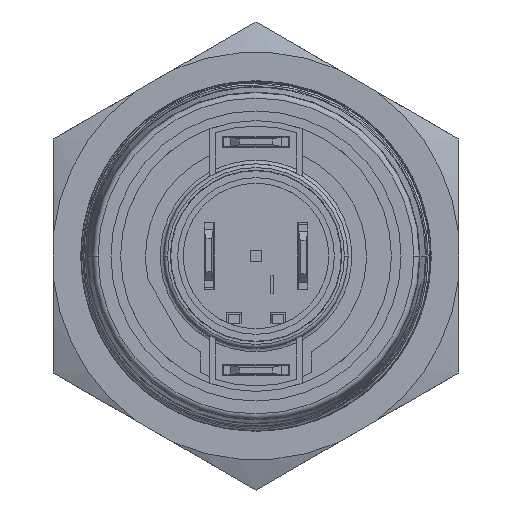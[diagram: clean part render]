
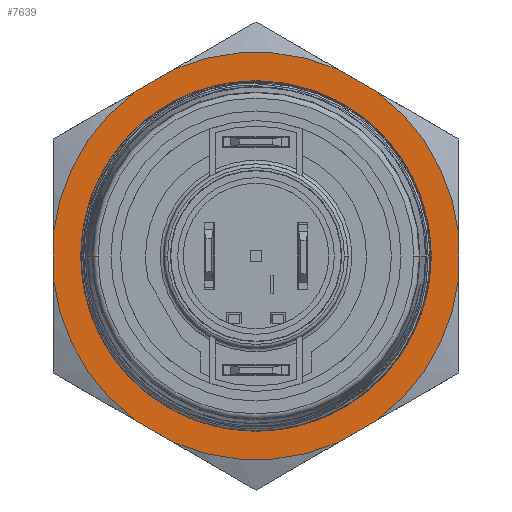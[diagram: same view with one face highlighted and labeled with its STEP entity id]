
A CAD part, front view. The second image highlights one B-rep face of the part: STEP entity #7639.
In plain terms, the highlighted planar face has unit normal (0, -1, 0).
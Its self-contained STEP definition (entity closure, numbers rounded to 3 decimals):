
#751=DIRECTION('',(0.866,0.,-0.5));
#752=VECTOR('',#751,2.392);
#753=CARTESIAN_POINT('',(-6.536,10.46,-8.928));
#754=LINE('',#753,#752);
#755=CARTESIAN_POINT('',(0.,10.46,0.));
#756=DIRECTION('',(0.,1.,0.));
#757=DIRECTION('',(-0.591,0.,-0.807));
#758=AXIS2_PLACEMENT_3D('',#755,#756,#757);
#760=DIRECTION('',(0.,0.,-1.));
#761=VECTOR('',#760,2.392);
#762=CARTESIAN_POINT('',(-11.,10.46,1.196));
#763=LINE('',#762,#761);
#764=CARTESIAN_POINT('',(0.,10.46,0.));
#765=DIRECTION('',(0.,1.,0.));
#766=DIRECTION('',(-0.994,0.,0.108));
#767=AXIS2_PLACEMENT_3D('',#764,#765,#766);
#769=DIRECTION('',(-0.866,0.,-0.5));
#770=VECTOR('',#769,2.392);
#771=CARTESIAN_POINT('',(-4.464,10.46,10.124));
#772=LINE('',#771,#770);
#773=DIRECTION('',(-0.866,0.,0.5));
#774=VECTOR('',#773,2.392);
#775=CARTESIAN_POINT('',(6.536,10.46,8.928));
#776=LINE('',#775,#774);
#777=CARTESIAN_POINT('',(0.,10.46,0.));
#778=DIRECTION('',(0.,1.,0.));
#779=DIRECTION('',(0.591,0.,0.807));
#780=AXIS2_PLACEMENT_3D('',#777,#778,#779);
#782=DIRECTION('',(0.,0.,1.));
#783=VECTOR('',#782,2.392);
#784=CARTESIAN_POINT('',(11.,10.46,-1.196));
#785=LINE('',#784,#783);
#786=CARTESIAN_POINT('',(0.,10.46,0.));
#787=DIRECTION('',(0.,1.,0.));
#788=DIRECTION('',(0.994,0.,-0.108));
#789=AXIS2_PLACEMENT_3D('',#786,#787,#788);
#791=DIRECTION('',(0.866,0.,0.5));
#792=VECTOR('',#791,2.392);
#793=CARTESIAN_POINT('',(4.464,10.46,-10.124));
#794=LINE('',#793,#792);
#795=CARTESIAN_POINT('',(0.,10.46,0.));
#796=DIRECTION('',(0.,1.,0.));
#797=DIRECTION('',(0.,0.,-1.));
#798=AXIS2_PLACEMENT_3D('',#795,#796,#797);
#800=CARTESIAN_POINT('',(0.,10.46,0.));
#801=DIRECTION('',(0.,1.,0.));
#802=DIRECTION('',(0.,0.,1.));
#803=AXIS2_PLACEMENT_3D('',#800,#801,#802);
#899=CARTESIAN_POINT('',(-4.464,10.46,10.124));
#988=CARTESIAN_POINT('',(4.464,10.46,10.124));
#1110=CARTESIAN_POINT('',(0.,10.46,0.));
#1111=DIRECTION('',(0.,-1.,0.));
#1112=DIRECTION('',(-0.403,0.,-0.915));
#1113=AXIS2_PLACEMENT_3D('',#1110,#1111,#1112);
#1115=CARTESIAN_POINT('',(0.,10.46,0.));
#1116=DIRECTION('',(0.,-1.,0.));
#1117=DIRECTION('',(0.403,0.,0.915));
#1118=AXIS2_PLACEMENT_3D('',#1115,#1116,#1117);
#6875=CARTESIAN_POINT('',(-6.536,10.46,-8.928));
#6876=CARTESIAN_POINT('',(-4.464,10.46,-10.124));
#6877=VERTEX_POINT('',#6875);
#6878=VERTEX_POINT('',#6876);
#6879=CARTESIAN_POINT('',(4.464,10.46,-10.124));
#6880=CARTESIAN_POINT('',(6.536,10.46,-8.928));
#6881=VERTEX_POINT('',#6879);
#6882=VERTEX_POINT('',#6880);
#6899=CARTESIAN_POINT('',(-11.,10.46,-1.196));
#6900=VERTEX_POINT('',#6899);
#6901=CARTESIAN_POINT('',(-11.,10.46,1.196));
#6902=CARTESIAN_POINT('',(-6.536,10.46,8.928));
#6903=VERTEX_POINT('',#6901);
#6904=VERTEX_POINT('',#6902);
#6905=CARTESIAN_POINT('',(6.536,10.46,8.928));
#6906=CARTESIAN_POINT('',(11.,10.46,1.196));
#6907=VERTEX_POINT('',#6905);
#6908=VERTEX_POINT('',#6906);
#6909=CARTESIAN_POINT('',(11.,10.46,-1.196));
#6910=VERTEX_POINT('',#6909);
#6914=VERTEX_POINT('',#899);
#6922=VERTEX_POINT('',#988);
#6927=CARTESIAN_POINT('',(0.,10.46,-9.52));
#6928=CARTESIAN_POINT('',(0.,10.46,9.52));
#6929=VERTEX_POINT('',#6927);
#6930=VERTEX_POINT('',#6928);
#7603=CARTESIAN_POINT('',(0.,10.46,0.));
#7604=DIRECTION('',(0.,-1.,0.));
#7605=DIRECTION('',(1.,0.,0.));
#7606=AXIS2_PLACEMENT_3D('',#7603,#7604,#7605);
#7607=PLANE('',#7606);
#7608=ORIENTED_EDGE('',*,*,#7587,.F.);
#7610=ORIENTED_EDGE('',*,*,#7609,.T.);
#7612=ORIENTED_EDGE('',*,*,#7611,.F.);
#7614=ORIENTED_EDGE('',*,*,#7613,.T.);
#7616=ORIENTED_EDGE('',*,*,#7615,.F.);
#7618=ORIENTED_EDGE('',*,*,#7617,.F.);
#7620=ORIENTED_EDGE('',*,*,#7619,.F.);
#7622=ORIENTED_EDGE('',*,*,#7621,.T.);
#7624=ORIENTED_EDGE('',*,*,#7623,.F.);
#7626=ORIENTED_EDGE('',*,*,#7625,.T.);
#7628=ORIENTED_EDGE('',*,*,#7627,.F.);
#7630=ORIENTED_EDGE('',*,*,#7629,.F.);
#7631=EDGE_LOOP('',(#7608,#7610,#7612,#7614,#7616,#7618,#7620,#7622,#7624,#7626,
#7628,#7630));
#7632=FACE_OUTER_BOUND('',#7631,.F.);
#7634=ORIENTED_EDGE('',*,*,#7633,.F.);
#7636=ORIENTED_EDGE('',*,*,#7635,.F.);
#7637=EDGE_LOOP('',(#7634,#7636));
#7638=FACE_BOUND('',#7637,.F.);
#759=CIRCLE('',#758,11.065);
#768=CIRCLE('',#767,11.065);
#781=CIRCLE('',#780,11.065);
#790=CIRCLE('',#789,11.065);
#799=CIRCLE('',#798,9.52);
#804=CIRCLE('',#803,9.52);
#1114=CIRCLE('',#1113,11.065);
#1119=CIRCLE('',#1118,11.065);
#7587=EDGE_CURVE('',#6877,#6878,#754,.T.);
#7609=EDGE_CURVE('',#6877,#6900,#759,.T.);
#7611=EDGE_CURVE('',#6903,#6900,#763,.T.);
#7613=EDGE_CURVE('',#6903,#6904,#768,.T.);
#7615=EDGE_CURVE('',#6914,#6904,#772,.T.);
#7617=EDGE_CURVE('',#6922,#6914,#1119,.T.);
#7619=EDGE_CURVE('',#6907,#6922,#776,.T.);
#7621=EDGE_CURVE('',#6907,#6908,#781,.T.);
#7623=EDGE_CURVE('',#6910,#6908,#785,.T.);
#7625=EDGE_CURVE('',#6910,#6882,#790,.T.);
#7627=EDGE_CURVE('',#6881,#6882,#794,.T.);
#7629=EDGE_CURVE('',#6878,#6881,#1114,.T.);
#7633=EDGE_CURVE('',#6929,#6930,#799,.T.);
#7635=EDGE_CURVE('',#6930,#6929,#804,.T.);
#7639=ADVANCED_FACE('',(#7632,#7638),#7607,.T.);
